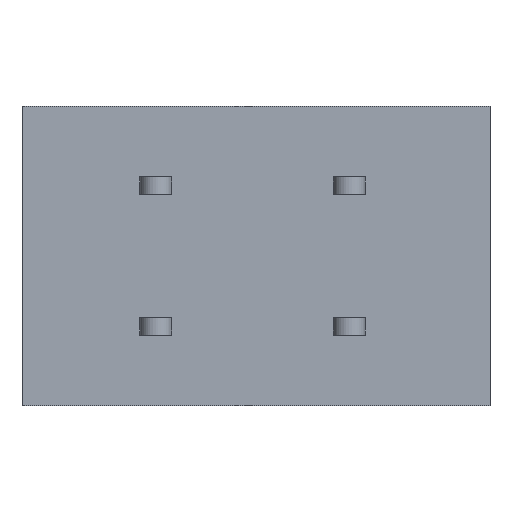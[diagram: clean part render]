
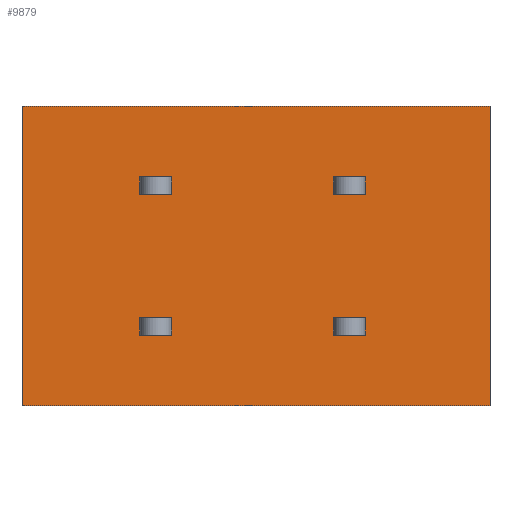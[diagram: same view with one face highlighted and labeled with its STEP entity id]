
A CAD part, front view. The second image highlights one B-rep face of the part: STEP entity #9879.
In plain terms, the highlighted planar face has unit normal (0, -1, 0).
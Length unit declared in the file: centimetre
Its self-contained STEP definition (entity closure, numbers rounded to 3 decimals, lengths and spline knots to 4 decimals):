
#548=VECTOR('',#10930,1.);
#552=VECTOR('',#10935,1.);
#558=VECTOR('',#10945,1.);
#561=VECTOR('',#10951,1.);
#564=VECTOR('',#10955,1.);
#576=VECTOR('',#10991,1.);
#577=VECTOR('',#10993,1.);
#588=VECTOR('',#11009,1.);
#600=VECTOR('',#11030,1.);
#601=VECTOR('',#11031,1.);
#602=VECTOR('',#11032,1.);
#603=VECTOR('',#11033,1.);
#604=VECTOR('',#11034,1.);
#605=VECTOR('',#11035,1.);
#606=VECTOR('',#11036,1.);
#607=VECTOR('',#11037,1.);
#608=VECTOR('',#11038,1.);
#609=VECTOR('',#11039,1.);
#610=VECTOR('',#11040,1.);
#611=VECTOR('',#11041,1.);
#1698=LINE('',#12954,#548);
#1702=LINE('',#12963,#552);
#1708=LINE('',#12978,#558);
#1711=LINE('',#12987,#561);
#1714=LINE('',#12993,#564);
#1726=LINE('',#13028,#576);
#1727=LINE('',#13030,#577);
#1738=LINE('',#13051,#588);
#1750=LINE('',#13080,#600);
#1751=LINE('',#13083,#601);
#1752=LINE('',#13085,#602);
#1753=LINE('',#13087,#603);
#1754=LINE('',#13088,#604);
#1755=LINE('',#13091,#605);
#1756=LINE('',#13093,#606);
#1757=LINE('',#13095,#607);
#1758=LINE('',#13096,#608);
#1759=LINE('',#13099,#609);
#1760=LINE('',#13101,#610);
#1761=LINE('',#13103,#611);
#2868=VERTEX_POINT('',#12955);
#2869=VERTEX_POINT('',#12956);
#2872=VERTEX_POINT('',#12964);
#2878=VERTEX_POINT('',#12979);
#2879=VERTEX_POINT('',#12980);
#2882=VERTEX_POINT('',#12988);
#2884=VERTEX_POINT('',#12994);
#2893=VERTEX_POINT('',#13031);
#2908=VERTEX_POINT('',#13081);
#2909=VERTEX_POINT('',#13082);
#2910=VERTEX_POINT('',#13084);
#2911=VERTEX_POINT('',#13086);
#2912=VERTEX_POINT('',#13089);
#2913=VERTEX_POINT('',#13090);
#2914=VERTEX_POINT('',#13092);
#2915=VERTEX_POINT('',#13094);
#2916=VERTEX_POINT('',#13097);
#2917=VERTEX_POINT('',#13098);
#2918=VERTEX_POINT('',#13100);
#2919=VERTEX_POINT('',#13102);
#4048=EDGE_CURVE('',#2868,#2869,#1698,.T.);
#4052=EDGE_CURVE('',#2872,#2868,#1702,.T.);
#4059=EDGE_CURVE('',#2878,#2879,#1708,.T.);
#4063=EDGE_CURVE('',#2882,#2878,#1711,.T.);
#4066=EDGE_CURVE('',#2884,#2882,#1714,.T.);
#4084=EDGE_CURVE('',#2879,#2884,#1726,.T.);
#4085=EDGE_CURVE('',#2893,#2872,#1727,.T.);
#4096=EDGE_CURVE('',#2869,#2893,#1738,.T.);
#4110=EDGE_CURVE('',#2908,#2909,#1750,.T.);
#4111=EDGE_CURVE('',#2909,#2910,#1751,.T.);
#4112=EDGE_CURVE('',#2910,#2911,#1752,.T.);
#4113=EDGE_CURVE('',#2911,#2908,#1753,.T.);
#4114=EDGE_CURVE('',#2912,#2913,#1754,.T.);
#4115=EDGE_CURVE('',#2914,#2912,#1755,.T.);
#4116=EDGE_CURVE('',#2915,#2914,#1756,.T.);
#4117=EDGE_CURVE('',#2913,#2915,#1757,.T.);
#4118=EDGE_CURVE('',#2916,#2917,#1758,.T.);
#4119=EDGE_CURVE('',#2918,#2916,#1759,.T.);
#4120=EDGE_CURVE('',#2919,#2918,#1760,.T.);
#4121=EDGE_CURVE('',#2917,#2919,#1761,.T.);
#5770=ORIENTED_EDGE('',*,*,#4110,.T.);
#5771=ORIENTED_EDGE('',*,*,#4111,.T.);
#5772=ORIENTED_EDGE('',*,*,#4112,.T.);
#5773=ORIENTED_EDGE('',*,*,#4113,.T.);
#5774=ORIENTED_EDGE('',*,*,#4114,.F.);
#5775=ORIENTED_EDGE('',*,*,#4115,.F.);
#5776=ORIENTED_EDGE('',*,*,#4116,.F.);
#5777=ORIENTED_EDGE('',*,*,#4117,.F.);
#5778=ORIENTED_EDGE('',*,*,#4118,.F.);
#5779=ORIENTED_EDGE('',*,*,#4119,.F.);
#5780=ORIENTED_EDGE('',*,*,#4120,.F.);
#5781=ORIENTED_EDGE('',*,*,#4121,.F.);
#5782=ORIENTED_EDGE('',*,*,#4066,.T.);
#5783=ORIENTED_EDGE('',*,*,#4063,.T.);
#5784=ORIENTED_EDGE('',*,*,#4059,.T.);
#5785=ORIENTED_EDGE('',*,*,#4084,.T.);
#5786=ORIENTED_EDGE('',*,*,#4052,.T.);
#5787=ORIENTED_EDGE('',*,*,#4048,.T.);
#5788=ORIENTED_EDGE('',*,*,#4096,.T.);
#5789=ORIENTED_EDGE('',*,*,#4085,.T.);
#8631=EDGE_LOOP('',(#5770,#5771,#5772,#5773));
#8632=EDGE_LOOP('',(#5774,#5775,#5776,#5777));
#8633=EDGE_LOOP('',(#5778,#5779,#5780,#5781));
#8634=EDGE_LOOP('',(#5782,#5783,#5784,#5785));
#8635=EDGE_LOOP('',(#5786,#5787,#5788,#5789));
#9259=FACE_BOUND('',#8631,.T.);
#9260=FACE_BOUND('',#8632,.T.);
#9261=FACE_BOUND('',#8633,.T.);
#9262=FACE_BOUND('',#8634,.T.);
#9263=FACE_BOUND('',#8635,.T.);
#9879=ADVANCED_FACE('',(#9259,#9260,#9261,#9262,#9263),#10431,.T.);
#10431=PLANE('',#16958);
#10930=DIRECTION('',(0.,0.,1.));
#10935=DIRECTION('',(-1.,0.,0.));
#10945=DIRECTION('',(-1.,0.,0.));
#10951=DIRECTION('',(0.,0.,-1.));
#10955=DIRECTION('',(1.,0.,0.));
#10991=DIRECTION('',(0.,0.,1.));
#10993=DIRECTION('',(0.,0.,-1.));
#11009=DIRECTION('',(1.,0.,0.));
#11029=DIRECTION('',(0.,-1.,0.));
#11030=DIRECTION('',(0.,0.,1.));
#11031=DIRECTION('',(-1.,0.,0.));
#11032=DIRECTION('',(0.,0.,-1.));
#11033=DIRECTION('',(1.,0.,0.));
#11034=DIRECTION('',(1.,0.,0.));
#11035=DIRECTION('',(0.,0.,-1.));
#11036=DIRECTION('',(-1.,0.,0.));
#11037=DIRECTION('',(0.,0.,1.));
#11038=DIRECTION('',(-1.,0.,0.));
#11039=DIRECTION('',(0.,0.,1.));
#11040=DIRECTION('',(1.,0.,0.));
#11041=DIRECTION('',(0.,0.,-1.));
#12954=CARTESIAN_POINT('',(-1.82,0.,0.2));
#12955=CARTESIAN_POINT('',(-1.82,0.,0.35));
#12956=CARTESIAN_POINT('',(-1.82,0.,0.45));
#12963=CARTESIAN_POINT('',(-0.865,0.,0.35));
#12964=CARTESIAN_POINT('',(-1.64,0.,0.35));
#12978=CARTESIAN_POINT('',(-0.865,0.,-0.45));
#12979=CARTESIAN_POINT('',(-1.64,0.,-0.45));
#12980=CARTESIAN_POINT('',(-1.82,0.,-0.45));
#12987=CARTESIAN_POINT('',(-1.64,0.,-0.2));
#12988=CARTESIAN_POINT('',(-1.64,0.,-0.35));
#12993=CARTESIAN_POINT('',(-0.865,0.,-0.35));
#12994=CARTESIAN_POINT('',(-1.82,0.,-0.35));
#13028=CARTESIAN_POINT('',(-1.82,0.,-0.2));
#13030=CARTESIAN_POINT('',(-1.64,0.,0.2));
#13031=CARTESIAN_POINT('',(-1.64,0.,0.45));
#13051=CARTESIAN_POINT('',(-0.865,0.,0.45));
#13079=CARTESIAN_POINT('',(0.,0.,0.));
#13080=CARTESIAN_POINT('',(0.13,0.,0.85));
#13081=CARTESIAN_POINT('',(0.13,0.,-0.85));
#13082=CARTESIAN_POINT('',(0.13,0.,0.85));
#13083=CARTESIAN_POINT('',(0.,0.,0.85));
#13084=CARTESIAN_POINT('',(-2.53,0.,0.85));
#13085=CARTESIAN_POINT('',(-2.53,0.,-0.85));
#13086=CARTESIAN_POINT('',(-2.53,0.,-0.85));
#13087=CARTESIAN_POINT('',(0.,0.,-0.85));
#13088=CARTESIAN_POINT('',(-0.415,0.,0.35));
#13089=CARTESIAN_POINT('',(-0.72,0.,0.35));
#13090=CARTESIAN_POINT('',(-0.54,0.,0.35));
#13091=CARTESIAN_POINT('',(-0.72,0.,0.2));
#13092=CARTESIAN_POINT('',(-0.72,0.,0.45));
#13093=CARTESIAN_POINT('',(-0.415,0.,0.45));
#13094=CARTESIAN_POINT('',(-0.54,0.,0.45));
#13095=CARTESIAN_POINT('',(-0.54,0.,0.2));
#13096=CARTESIAN_POINT('',(-0.415,0.,-0.35));
#13097=CARTESIAN_POINT('',(-0.54,0.,-0.35));
#13098=CARTESIAN_POINT('',(-0.72,0.,-0.35));
#13099=CARTESIAN_POINT('',(-0.54,0.,-0.2));
#13100=CARTESIAN_POINT('',(-0.54,0.,-0.45));
#13101=CARTESIAN_POINT('',(-0.415,0.,-0.45));
#13102=CARTESIAN_POINT('',(-0.72,0.,-0.45));
#13103=CARTESIAN_POINT('',(-0.72,0.,-0.2));
#16958=AXIS2_PLACEMENT_3D('',#13079,#11029,$);
